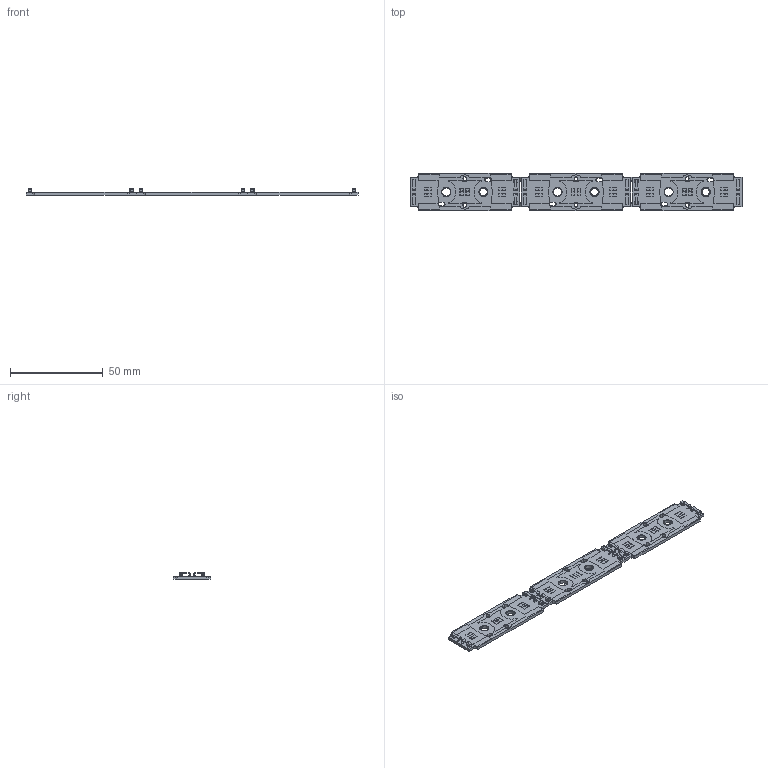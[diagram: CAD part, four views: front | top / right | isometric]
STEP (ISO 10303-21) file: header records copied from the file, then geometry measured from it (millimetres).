
FILE_DESCRIPTION(('CATIA V5 STEP Exchange','CAx-IF Rec.Pracs.--- Model Styling and Organization---1.4--- 2014-01-23'),'2;1');
FILE_NAME('D:\MECHMODELS\päivittäiset\202203\Daisy-mini-3x1\mechanical\DAISY-MINI-3X1_2_LED_REFERANCE-PCB_TW_20220427_MechanicalModel.stp','2022-04-27T11:48:05+00:00',('none'),('none'),'CATIA Version 5-6 Release 2018 SP4','CATIA V5 STEP AP214','none');
FILE_SCHEMA(('AUTOMOTIVE_DESIGN { 1 0 10303 214 1 1 1 1 }'));
Products named in the file (1): DAISY-MINI-3X1_2_LED_REFERANCE-PCB_TW_001
Bounding box: 179.2 x 20 x 3.6 mm (x, y, z)
Volume: 5363 mm3; surface area: 8516.3 mm2
Topology: 49 solids, 49 shells, 1839 faces, 5130 edges, 3408 vertices
Faces by surface type: plane 1595, cylinder 244
Entity records: 54210 total; most frequent: CARTESIAN_POINT 11110, ORIENTED_EDGE 10260, DIRECTION 6560, EDGE_CURVE 5130, VECTOR 4506, LINE 4506, VERTEX_POINT 3408, EDGE_LOOP 1922
